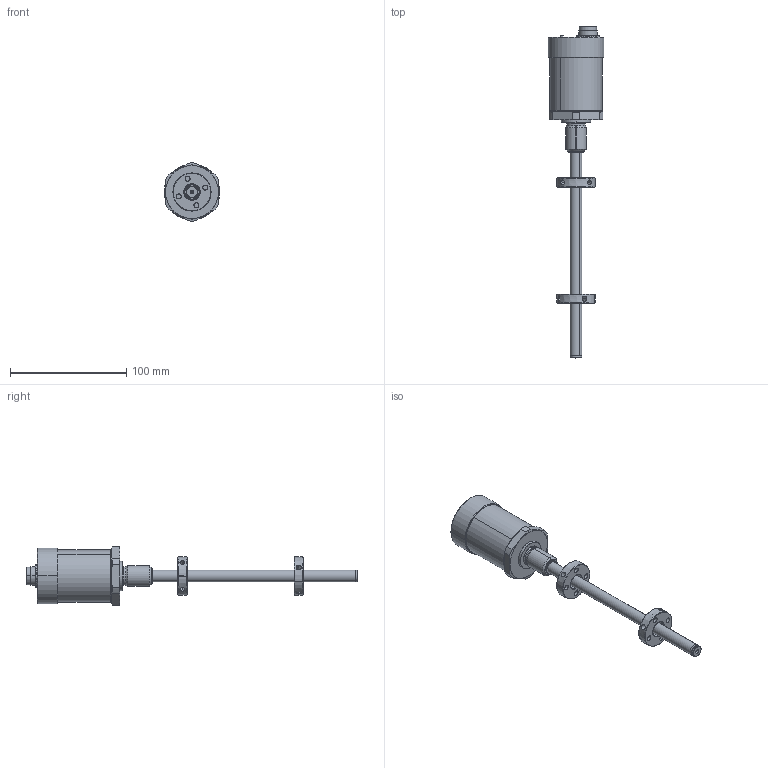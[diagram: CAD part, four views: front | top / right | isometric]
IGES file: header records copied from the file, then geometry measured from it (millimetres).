
Start section: SolidWorks IGES file using analytic representation for surfaces
Global section: file name: C:\Users\piero.tempini\Desktop\Nuova cartella\IK4-SK4\3D\Iges 5.3\IK4-0100.IGS; native system: SolidWorks 2012; preprocessor: SolidWorks 2012; author: piero.tempini; date: 121026.110242; units: millimetre
Bounding box: 48 x 285.7 x 50 mm (x, y, z)
Surface area: 45673.8 mm2 (no closed solid volume)
Topology: 0 solids, 0 shells, 403 faces, 7573 edges, 7558 vertices
Faces by surface type: revolution 256, bspline 147
